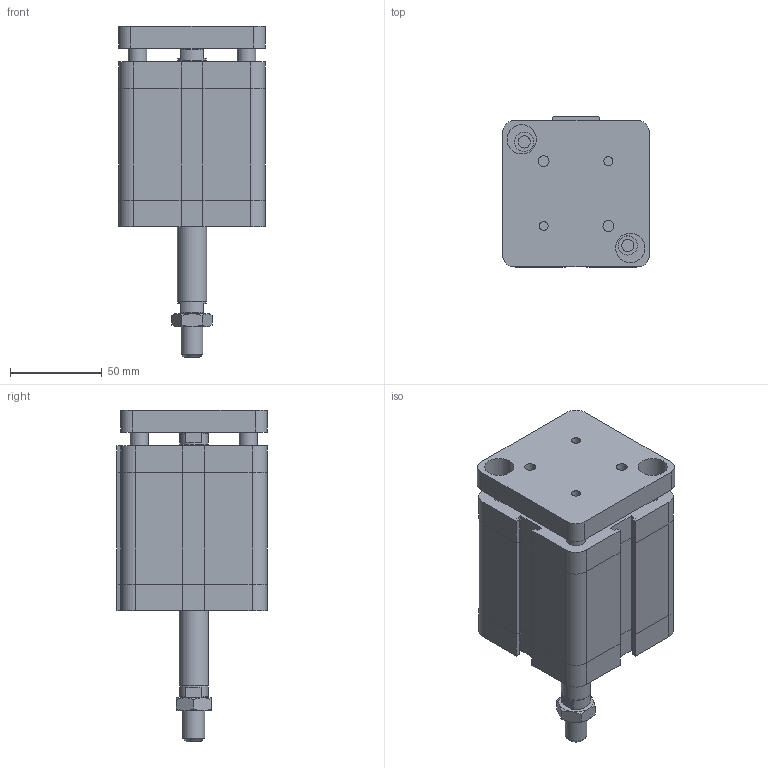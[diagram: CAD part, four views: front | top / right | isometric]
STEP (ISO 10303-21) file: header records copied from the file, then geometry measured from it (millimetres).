
FILE_DESCRIPTION((''),'2;1');
FILE_NAME('I:\Area Tecnica\Disegni\VARIE-3D\Componenti\EUROPE\15##_###_####_09_#\1561_63_0040_09_1.iam.stp','2009-04-20T15:39:11',(''),(''),'Autodesk Inventor 2009','Autodesk Inventor 2009','');
FILE_SCHEMA(('AUTOMOTIVE_DESIGN { 1 0 10303 214 1 1 1 1 }'));
Length unit declared in the file: millimetre
Products named in the file (4): 1561_63_0040_09_1; 1561_63_0040_08_1_C; 1561_63_0040_09_1_SA; DBFM12
Assembly tree (3 placements, depth 2):
  1561_63_0040_09_1
    1561_63_0040_08_1_C
    1561_63_0040_09_1_SA
    DBFM12
Bounding box: 80 x 82 x 181 mm (x, y, z)
Volume: 640210.2 mm3; surface area: 84574.6 mm2
Topology: 3 solids, 3 shells, 209 faces, 470 edges, 287 vertices
Faces by surface type: plane 120, bspline 45, cylinder 23, cone 21
Full cylindrical faces by diameter (mm): 10 x2, 10.8 x1, 12 x1, 15.6 x2, 16 x1
Entity records: 5963 total; most frequent: CARTESIAN_POINT 1453, DIRECTION 838, ORIENTED_EDGE 834, EDGE_CURVE 417, AXIS2_PLACEMENT_3D 282, EDGE_LOOP 282, VECTOR 274, LINE 274
